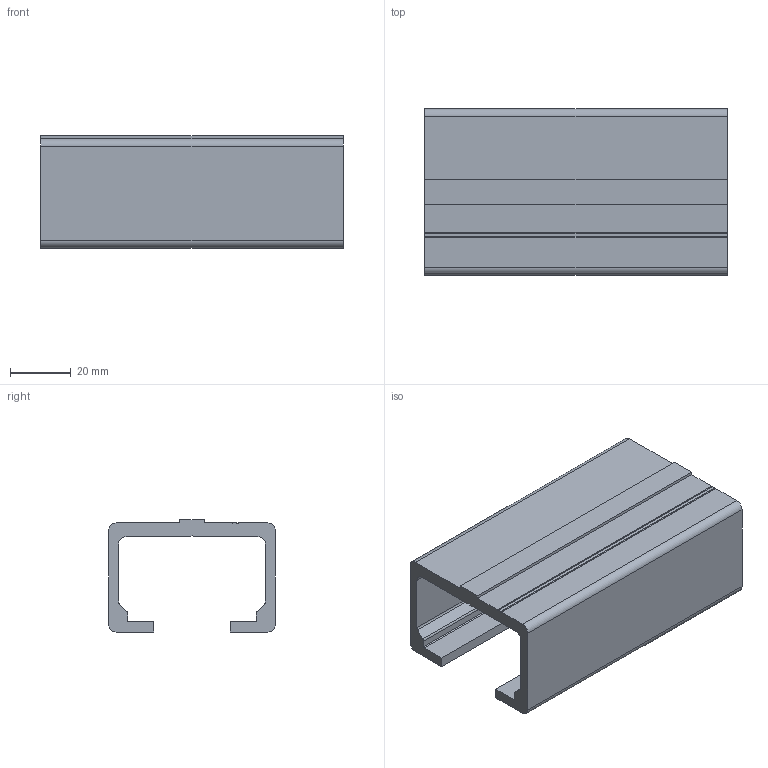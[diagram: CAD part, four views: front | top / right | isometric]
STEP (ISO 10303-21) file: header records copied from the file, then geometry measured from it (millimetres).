
FILE_DESCRIPTION (( 'STEP AP214' ), '1' );
FILE_NAME ('084.101.052.STEP', '2020-07-23T07:32:45', ( '' ), ( '' ), 'SwSTEP 2.0', 'SolidWorks 2018', '' );
FILE_SCHEMA (( 'AUTOMOTIVE_DESIGN' ));
Length unit declared in the file: millimetre
Products named in the file (1): 084.101.052
Bounding box: 100 x 55 x 37 mm (x, y, z)
Volume: 56612.2 mm3; surface area: 29530.2 mm2
Topology: 1 solids, 1 shells, 42 faces, 120 edges, 80 vertices
Faces by surface type: plane 29, cylinder 13
Entity records: 1404 total; most frequent: CARTESIAN_POINT 243, ORIENTED_EDGE 240, DIRECTION 232, EDGE_CURVE 120, VECTOR 94, LINE 94, VERTEX_POINT 80, AXIS2_PLACEMENT_3D 69
